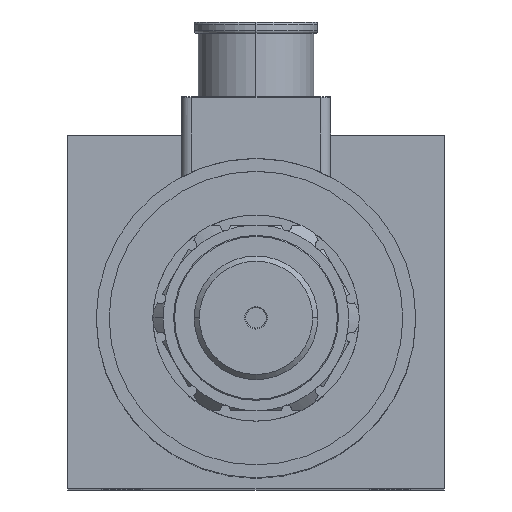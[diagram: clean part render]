
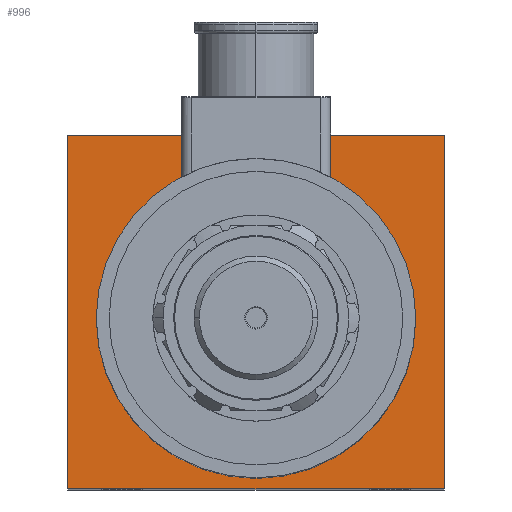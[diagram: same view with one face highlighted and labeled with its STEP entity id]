
A CAD part, top view. The second image highlights one B-rep face of the part: STEP entity #996.
In plain terms, the highlighted planar face has unit normal (0, 0, 1).
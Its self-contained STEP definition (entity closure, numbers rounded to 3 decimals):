
#124 = EDGE_CURVE ( 'NONE', #14300, #823, #8934, .T. ) ;
#130 = CARTESIAN_POINT ( 'NONE',  ( -36.5, -34.25, 130. ) ) ;
#823 = VERTEX_POINT ( 'NONE', #15622 ) ;
#996 = ADVANCED_FACE ( 'NONE', ( #15720, #13071 ), #7168, .F. ) ;
#1390 = CARTESIAN_POINT ( 'NONE',  ( 36.5, -34.25, 130. ) ) ;
#1579 = DIRECTION ( 'NONE',  ( 0., 0., 1. ) ) ;
#1666 = DIRECTION ( 'NONE',  ( 1., 0., 0. ) ) ;
#1709 = ORIENTED_EDGE ( 'NONE', *, *, #7994, .T. ) ;
#1943 = DIRECTION ( 'NONE',  ( 0., 1., 0. ) ) ;
#2087 = ORIENTED_EDGE ( 'NONE', *, *, #7394, .T. ) ;
#2382 = AXIS2_PLACEMENT_3D ( 'NONE', #11753, #16296, #6151 ) ;
#2554 = ORIENTED_EDGE ( 'NONE', *, *, #3480, .F. ) ;
#2630 = VERTEX_POINT ( 'NONE', #4342 ) ;
#2709 = CIRCLE ( 'NONE', #2382, 31. ) ;
#2835 = EDGE_CURVE ( 'NONE', #3326, #14300, #7959, .T. ) ;
#2896 = LINE ( 'NONE', #10069, #4989 ) ;
#3326 = VERTEX_POINT ( 'NONE', #130 ) ;
#3480 = EDGE_CURVE ( 'NONE', #14164, #14723, #2709, .T. ) ;
#4342 = CARTESIAN_POINT ( 'NONE',  ( -36.5, 34.25, 130. ) ) ;
#4535 = DIRECTION ( 'NONE',  ( -1., 0., 0. ) ) ;
#4710 = LINE ( 'NONE', #16158, #12857 ) ;
#4789 = CARTESIAN_POINT ( 'NONE',  ( 0., -1.25, 130. ) ) ;
#4895 = CARTESIAN_POINT ( 'NONE',  ( 36.5, -34.25, 130. ) ) ;
#4989 = VECTOR ( 'NONE', #14545, 1000. ) ;
#5223 = EDGE_LOOP ( 'NONE', ( #16568, #2554 ) ) ;
#6151 = DIRECTION ( 'NONE',  ( 1., 0., 0. ) ) ;
#6200 = AXIS2_PLACEMENT_3D ( 'NONE', #17296, #17468, #4535 ) ;
#6821 = ORIENTED_EDGE ( 'NONE', *, *, #2835, .T. ) ;
#7077 = ORIENTED_EDGE ( 'NONE', *, *, #124, .T. ) ;
#7168 = PLANE ( 'NONE',  #6200 ) ;
#7394 = EDGE_CURVE ( 'NONE', #823, #2630, #4710, .T. ) ;
#7959 = LINE ( 'NONE', #13776, #18375 ) ;
#7994 = EDGE_CURVE ( 'NONE', #2630, #3326, #2896, .T. ) ;
#8812 = CARTESIAN_POINT ( 'NONE',  ( -31., -1.25, 130. ) ) ;
#8934 = LINE ( 'NONE', #4895, #15018 ) ;
#9031 = DIRECTION ( 'NONE',  ( -1., 0., 0. ) ) ;
#10069 = CARTESIAN_POINT ( 'NONE',  ( -36.5, -34.25, 130. ) ) ;
#10186 = CARTESIAN_POINT ( 'NONE',  ( 31., -1.25, 130. ) ) ;
#11753 = CARTESIAN_POINT ( 'NONE',  ( 0., -1.25, 130. ) ) ;
#12330 = EDGE_LOOP ( 'NONE', ( #7077, #2087, #1709, #6821 ) ) ;
#12857 = VECTOR ( 'NONE', #9031, 1000. ) ;
#13071 = FACE_OUTER_BOUND ( 'NONE', #12330, .T. ) ;
#13776 = CARTESIAN_POINT ( 'NONE',  ( -36.5, -34.25, 130. ) ) ;
#14164 = VERTEX_POINT ( 'NONE', #10186 ) ;
#14300 = VERTEX_POINT ( 'NONE', #1390 ) ;
#14545 = DIRECTION ( 'NONE',  ( 0., -1., 0. ) ) ;
#14723 = VERTEX_POINT ( 'NONE', #8812 ) ;
#15018 = VECTOR ( 'NONE', #1943, 1000. ) ;
#15412 = AXIS2_PLACEMENT_3D ( 'NONE', #4789, #1579, #1666 ) ;
#15622 = CARTESIAN_POINT ( 'NONE',  ( 36.5, 34.25, 130. ) ) ;
#15720 = FACE_BOUND ( 'NONE', #5223, .T. ) ;
#16013 = CIRCLE ( 'NONE', #15412, 31. ) ;
#16158 = CARTESIAN_POINT ( 'NONE',  ( -36.5, 34.25, 130. ) ) ;
#16296 = DIRECTION ( 'NONE',  ( 0., 0., 1. ) ) ;
#16568 = ORIENTED_EDGE ( 'NONE', *, *, #18285, .F. ) ;
#16875 = DIRECTION ( 'NONE',  ( 1., 0., 0. ) ) ;
#17296 = CARTESIAN_POINT ( 'NONE',  ( 0., 0., 130. ) ) ;
#17468 = DIRECTION ( 'NONE',  ( 0., 0., -1. ) ) ;
#18285 = EDGE_CURVE ( 'NONE', #14723, #14164, #16013, .T. ) ;
#18375 = VECTOR ( 'NONE', #16875, 1000. ) ;
